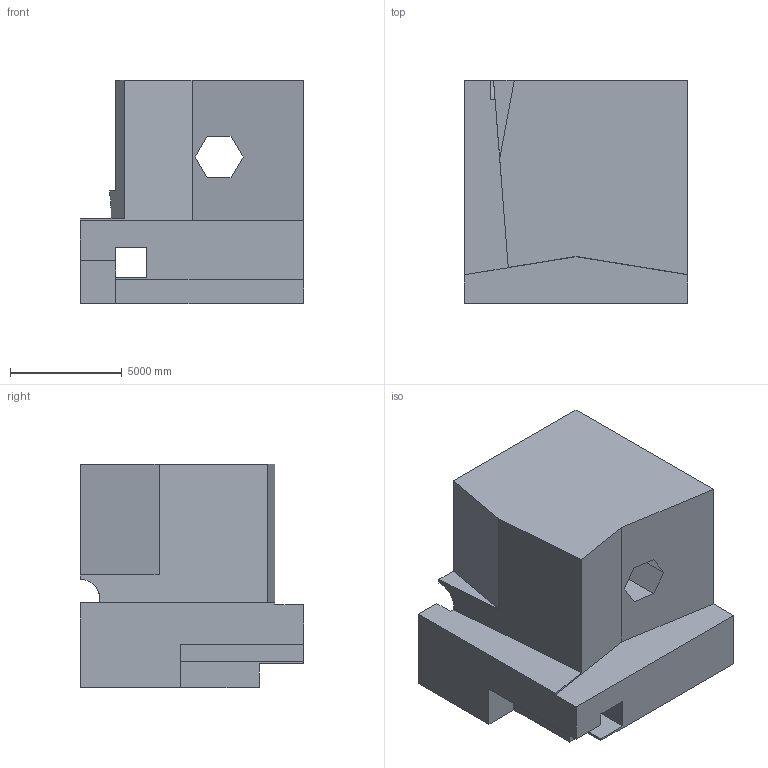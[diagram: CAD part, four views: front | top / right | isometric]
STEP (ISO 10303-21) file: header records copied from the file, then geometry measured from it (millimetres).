
FILE_DESCRIPTION (( 'STEP AP203' ), '1' );
FILE_NAME ('806.STEP', '2022-07-29T13:21:01', ( 'user' ), ( '' ), 'SwSTEP 2.0', 'SolidWorks 2021', '' );
FILE_SCHEMA (( 'CONFIG_CONTROL_DESIGN' ));
Length unit declared in the file: centimetre
Products named in the file (1): 806
Bounding box: 10000 x 10000 x 10000 mm (x, y, z)
Volume: 693289115131.7 mm3; surface area: 648433646.9 mm2
Topology: 1 solids, 1 shells, 38 faces, 113 edges, 75 vertices
Faces by surface type: plane 35, cylinder 3
Entity records: 1408 total; most frequent: CARTESIAN_POINT 299, ORIENTED_EDGE 226, DIRECTION 196, EDGE_CURVE 113, LINE 104, VECTOR 104, VERTEX_POINT 75, AXIS2_PLACEMENT_3D 46
